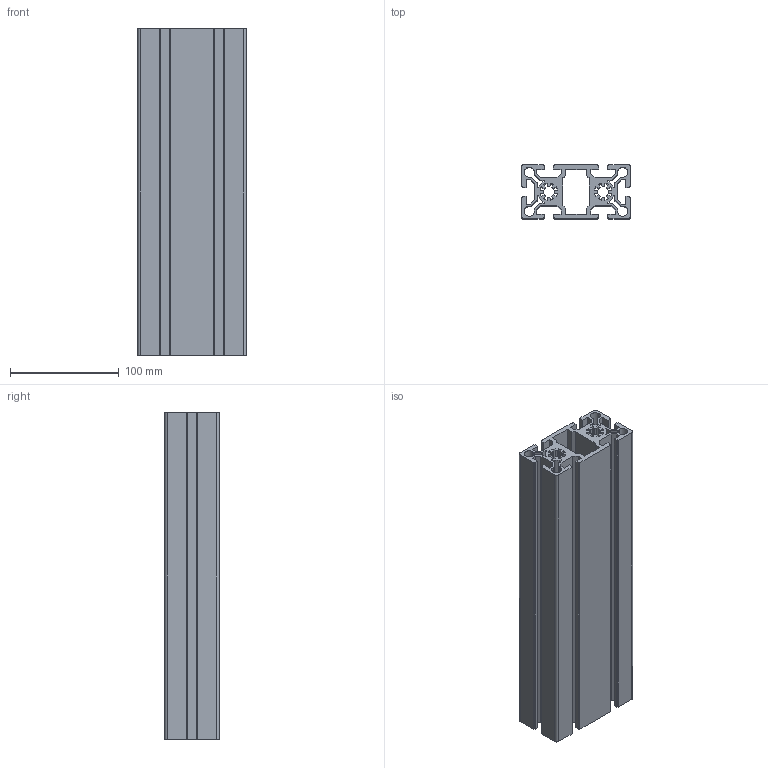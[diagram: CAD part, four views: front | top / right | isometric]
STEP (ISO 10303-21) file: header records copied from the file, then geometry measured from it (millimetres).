
FILE_DESCRIPTION (( 'STEP AP203' ), '1' );
FILE_NAME ('CE-50100-8.STEP', '2016-07-28T02:07:48', ( '' ), ( '' ), 'SwSTEP 2.0', 'SolidWorks 2013', '' );
FILE_SCHEMA (( 'CONFIG_CONTROL_DESIGN' ));
Length unit declared in the file: millimetre
Products named in the file (1): CE-50100-8
Bounding box: 100 x 50 x 300 mm (x, y, z)
Volume: 635704.9 mm3; surface area: 341382.4 mm2
Topology: 1 solids, 1 shells, 236 faces, 702 edges, 468 vertices
Faces by surface type: plane 158, cylinder 78
Entity records: 8007 total; most frequent: CARTESIAN_POINT 1407, ORIENTED_EDGE 1404, DIRECTION 1332, EDGE_CURVE 702, LINE 546, VECTOR 546, VERTEX_POINT 468, AXIS2_PLACEMENT_3D 393
